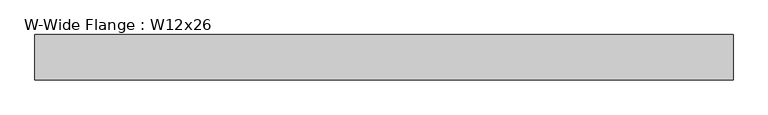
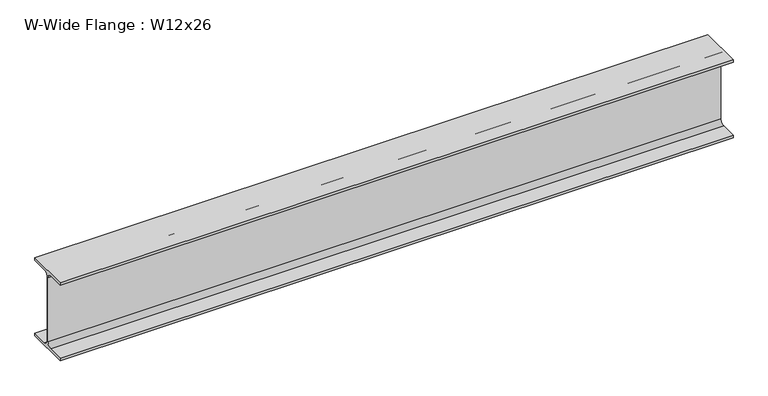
"""IFC4 building model written with IfcOpenShell, lengths in millimetres: beam geometry, W-Wide Flange : W12x26."""

import ifcopenshell
import ifcopenshell.guid

model = None  # the IFC model being written
_history = None  # IfcOwnerHistory: only IFC2X3 demands one
_inside = {}  # id of a spatial element -> (the spatial element, [elements in it])
_under = {}  # id of a project, library or spatial element -> (it, [spatial elements below it])
_declared = {}  # id of a project -> (the project, [libraries it declares])
_typed = {}  # id of a type object -> (the type object, [elements of that type])
_made_of = {}  # id of a material, layer set ... -> (it, [elements and type objects made of it])


def new_model(schema):
    """Start an empty IFC model of exactly this schema.

    Asked for "IFC4X3", IfcOpenShell would pick the latest addendum, in which some entities
    have other attributes; the version numbers below select the first issue.
    IFC2X3 requires an IfcOwnerHistory on every rooted entity: one is made here for all.
    """
    global model, _history
    if schema == "IFC4X3":
        model = ifcopenshell.file(schema_version=(4, 3, 0, 0))
    else:
        model = ifcopenshell.file(schema=schema)
    _inside.clear()
    _under.clear()
    _declared.clear()
    _typed.clear()
    _made_of.clear()
    _history = None
    if model.schema == "IFC2X3":
        org = make("IfcOrganization", Name="unknown")
        user = make(
            "IfcPersonAndOrganization",
            ThePerson=make("IfcPerson", FamilyName="unknown"),
            TheOrganization=org,
        )
        app = make(
            "IfcApplication",
            ApplicationDeveloper=org,
            Version="unknown",
            ApplicationFullName="unknown",
            ApplicationIdentifier="unknown",
        )
        _history = make(
            "IfcOwnerHistory",
            OwningUser=user,
            OwningApplication=app,
            ChangeAction="ADDED",
            CreationDate=0,
        )
    return model


def make(cls, **values):
    """One entity of the class cls with the attributes given. An attribute that is None is left unset."""
    return model.create_entity(
        cls, **{name: value for name, value in values.items() if value is not None}
    )


def rooted(cls, **values):
    """An entity with a GlobalId (a new one), such as an element, a storey or a relation."""
    return make(cls, GlobalId=ifcopenshell.guid.new(), OwnerHistory=_history, **values)


def si_unit(unit_type, name, prefix=None):
    """IfcSIUnit, for example si_unit("LENGTHUNIT", "METRE", prefix="MILLI")."""
    return make("IfcSIUnit", UnitType=unit_type, Prefix=prefix, Name=name)


def assignment(units):
    """IfcUnitAssignment: the units of a project."""
    return None if units is None else make("IfcUnitAssignment", Units=units)


def point(xyz):
    """IfcCartesianPoint."""
    return None if xyz is None else make("IfcCartesianPoint", Coordinates=xyz)


def direction(xyz):
    """IfcDirection."""
    return None if xyz is None else make("IfcDirection", DirectionRatios=xyz)


def frame(location, z_axis=None, x_axis=None):
    """IfcAxis2Placement3D, a coordinate frame: its origin and axes. An axis left out is left unset."""
    return make(
        "IfcAxis2Placement3D",
        Location=point(location),
        Axis=direction(z_axis),
        RefDirection=direction(x_axis),
    )


def frame_2d(location, x_axis=None):
    """IfcAxis2Placement2D, a coordinate frame in the plane: its origin and x axis."""
    return make(
        "IfcAxis2Placement2D", Location=point(location), RefDirection=direction(x_axis)
    )


def origin():
    """The frame at (0, 0, 0) with its axes left unset."""
    return frame((0.0, 0.0, 0.0))


def place(relative_to, where):
    """IfcLocalPlacement: puts the frame where relative to a parent placement (None: the world)."""
    return make(
        "IfcLocalPlacement", PlacementRelTo=relative_to, RelativePlacement=where
    )


def context(
    kind, dimensions, precision=None, world=None, true_north=None, identifier=None
):
    """IfcGeometricRepresentationContext, for example the 3D "Model" context."""
    return make(
        "IfcGeometricRepresentationContext",
        ContextIdentifier=identifier,
        ContextType=kind,
        CoordinateSpaceDimension=dimensions,
        Precision=precision,
        WorldCoordinateSystem=world,
        TrueNorth=true_north,
    )


def project(units=None, contexts=None):
    """IfcProject with its units and contexts."""
    return rooted(
        "IfcProject",
        Name="project",
        RepresentationContexts=contexts,
        UnitsInContext=assignment(units),
    )


def spatial(cls, under=None, at=None, **own):
    """A site, building, storey or space (cls), placed at a placement, below another one or the project."""
    s = rooted(cls, ObjectPlacement=at, **own)
    if under is not None:
        _under.setdefault(under.id(), (under, []))[1].append(s)
    return s


def polyline(points):
    """IfcPolyline through the points."""
    return make("IfcPolyline", Points=[point(p) for p in points])


def circle_curve(where, radius):
    """IfcCircle in the frame where."""
    return make("IfcCircle", Position=where, Radius=radius)


def trimmed(basis, trim1, trim2, sense, master):
    """IfcTrimmedCurve: the piece of a basis curve between two trims."""
    return make(
        "IfcTrimmedCurve",
        BasisCurve=basis,
        Trim1=trim1,
        Trim2=trim2,
        SenseAgreement=sense,
        MasterRepresentation=master,
    )


def segment(curve, same_sense, transition):
    """IfcCompositeCurveSegment."""
    return make(
        "IfcCompositeCurveSegment",
        Transition=transition,
        SameSense=same_sense,
        ParentCurve=curve,
    )


def composite_curve(segments, self_intersect=None):
    """IfcCompositeCurve: segments joined end to end."""
    return make("IfcCompositeCurve", Segments=segments, SelfIntersect=self_intersect)


def outline(outer, holes=None, kind="AREA"):
    """IfcArbitraryClosedProfileDef: a profile drawn as a closed curve; with holes, ...WithVoids."""
    if holes is None:
        return make("IfcArbitraryClosedProfileDef", ProfileType=kind, OuterCurve=outer)
    return make(
        "IfcArbitraryProfileDefWithVoids",
        ProfileType=kind,
        OuterCurve=outer,
        InnerCurves=holes,
    )


def extrude(swept, where, along, depth):
    """IfcExtrudedAreaSolid: the profile swept, set in the frame where, extruded along a direction by depth."""
    return make(
        "IfcExtrudedAreaSolid",
        SweptArea=swept,
        Position=where,
        ExtrudedDirection=direction(along),
        Depth=depth,
    )


def shape(context_of_items, identifier, shape_type, items):
    """IfcShapeRepresentation: the items that make up one representation, for example the "Body"."""
    return make(
        "IfcShapeRepresentation",
        ContextOfItems=context_of_items,
        RepresentationIdentifier=identifier,
        RepresentationType=shape_type,
        Items=items,
    )


def source(mapping_origin, context_of_items, identifier, shape_type, items):
    """IfcRepresentationMap: a shape defined once, which mapped items show again and again."""
    return make(
        "IfcRepresentationMap",
        MappingOrigin=mapping_origin,
        MappedRepresentation=shape(context_of_items, identifier, shape_type, items),
    )


def transform(
    local_origin,
    x_axis=None,
    y_axis=None,
    z_axis=None,
    scale=None,
    scale2=None,
    scale3=None,
    uniform=True,
):
    """IfcCartesianTransformationOperator3D, or its non-uniform kind. x_axis, y_axis, z_axis: its Axis1, 2, 3."""
    if uniform:
        return make(
            "IfcCartesianTransformationOperator3D",
            Axis1=direction(x_axis),
            Axis2=direction(y_axis),
            LocalOrigin=point(local_origin),
            Scale=scale,
            Axis3=direction(z_axis),
        )
    return make(
        "IfcCartesianTransformationOperator3DnonUniform",
        Axis1=direction(x_axis),
        Axis2=direction(y_axis),
        LocalOrigin=point(local_origin),
        Scale=scale,
        Axis3=direction(z_axis),
        Scale2=scale2,
        Scale3=scale3,
    )


def mapped(mapping_source, mapping_target):
    """IfcMappedItem: shows the shape of a source again, moved by a transform."""
    return make(
        "IfcMappedItem", MappingSource=mapping_source, MappingTarget=mapping_target
    )


def made_of(thing, what):
    """Note that an element or type object is made of a material, layer set ...; save() writes the relation."""
    if what is not None:
        _made_of.setdefault(what.id(), (what, []))[1].append(thing)
    return thing


def element(
    cls,
    number,
    at=None,
    inside=None,
    cuts=None,
    type_object=None,
    material=None,
    context=None,
    identifier="Body",
    shape_type=None,
    held_by="IfcProductDefinitionShape",
    body=None,
    shapes=None,
    **own,
):
    """One element of the class cls, such as IfcWall. Its Tag is "e" and its number.

    at: its placement. inside: the storey or other place that contains it. cuts: it is an
    opening in that element (IfcRelVoidsElement). A single representation is given by context,
    identifier, shape_type and body (its items); several are given by shapes. held_by: the class
    of the entity that holds the representations. save() writes the other relations.
    """
    e = rooted(cls, Tag="e%d" % number, ObjectPlacement=at, **own)
    if body is not None:
        shapes = [shape(context, identifier, shape_type, body)]
    if shapes is not None:
        e.Representation = make(held_by, Representations=shapes)
    if inside is not None:
        _inside.setdefault(inside.id(), (inside, []))[1].append(e)
    if cuts is not None:
        rooted(
            "IfcRelVoidsElement", RelatingBuildingElement=cuts, RelatedOpeningElement=e
        )
    if type_object is not None:
        _typed.setdefault(type_object.id(), (type_object, []))[1].append(e)
    return made_of(e, material)


def aggregate(whole, parts):
    """IfcRelAggregates: a whole, such as a stair, and the parts it consists of."""
    return rooted("IfcRelAggregates", RelatingObject=whole, RelatedObjects=parts)


def save(model, path):
    """Write the relations noted so far, then the file.

    IfcRelAggregates (storeys below a building ...), IfcRelContainedInSpatialStructure (elements
    in a storey), IfcRelDefinesByType, IfcRelAssociatesMaterial and IfcRelDeclares: one each for
    every whole, place, type object, material and project.
    """
    for whole, parts in _under.values():
        aggregate(whole, parts)
    for where, things in _inside.values():
        rooted(
            "IfcRelContainedInSpatialStructure",
            RelatedElements=things,
            RelatingStructure=where,
        )
    for kind, things in _typed.values():
        rooted("IfcRelDefinesByType", RelatedObjects=things, RelatingType=kind)
    for what, things in _made_of.values():
        rooted("IfcRelAssociatesMaterial", RelatedObjects=things, RelatingMaterial=what)
    for by, libraries in _declared.values():
        rooted("IfcRelDeclares", RelatingContext=by, RelatedDefinitions=libraries)
    model.write(path)


def w_wide_flange_w12x26_b0df8db8(model_context):
    return source(origin(), model_context, "Body", "SweptSolid", [
        extrude(outline(composite_curve([segment(polyline([(82.423, -145.288), (82.423, -154.94), (-82.423, -154.94), (-82.423, -145.288), (-20.2565, -145.288)]), True, "CONTINUOUS"), segment(trimmed(circle_curve(frame_2d((-20.2565, -127.9525)), 17.3355), [point((-20.2565, -145.288))], [point((-2.921, -127.9525))], True, "CARTESIAN"), True, "CONTINUOUS"), segment(polyline([(-2.921, -127.9525), (-2.921, 127.9525)]), True, "CONTINUOUS"), segment(trimmed(circle_curve(frame_2d((-20.2565, 127.9525)), 17.3355), [point((-2.921, 127.9525))], [point((-20.2565, 145.288))], True, "CARTESIAN"), True, "CONTINUOUS"), segment(polyline([(-20.2565, 145.288), (-82.423, 145.288), (-82.423, 154.94), (82.423, 154.94), (82.423, 145.288), (20.2565, 145.288)]), True, "CONTINUOUS"), segment(trimmed(circle_curve(frame_2d((20.2565, 127.9525)), 17.3355), [point((20.2565, 145.288))], [point((2.921, 127.9525))], True, "CARTESIAN"), True, "CONTINUOUS"), segment(polyline([(2.921, 127.9525), (2.921, -127.9525)]), True, "CONTINUOUS"), segment(trimmed(circle_curve(frame_2d((20.2565, -127.9525)), 17.3355), [point((2.921, -127.9525))], [point((20.2565, -145.288))], True, "CARTESIAN"), True, "CONTINUOUS"), segment(polyline([(20.2565, -145.288), (82.423, -145.288)]), True, "CONTINUOUS")], self_intersect=False)), frame((-1256.4745, 0.0, 0.0), z_axis=(1.0, 0.0, 0.0), x_axis=(0.0, 1.0, 0.0)), (0.0, 0.0, 1.0), 2536.698),
    ])


if __name__ == "__main__":
    model = new_model("IFC4")
    model_context = context("Model", 3, world=origin())
    ifc_project = project(units=[si_unit("LENGTHUNIT", "METRE", prefix="MILLI")], contexts=[model_context])
    site = spatial("IfcSite", under=ifc_project)
    building = spatial("IfcBuilding", under=site)
    placement = place(None, origin())
    w_wide_flange_w12x26_shape = w_wide_flange_w12x26_b0df8db8(model_context)
    element("IfcBeam", 1, ObjectType="W-Wide Flange : W12x26", at=placement, inside=building, context=model_context, shape_type="MappedRepresentation", body=[
        mapped(w_wide_flange_w12x26_shape, transform((0.0, 0.0, 0.0), x_axis=(1.0, 0.0, 0.0), y_axis=(0.0, 1.0, 0.0), z_axis=(0.0, 0.0, 1.0))),
    ])
    save(model, "model.ifc")
